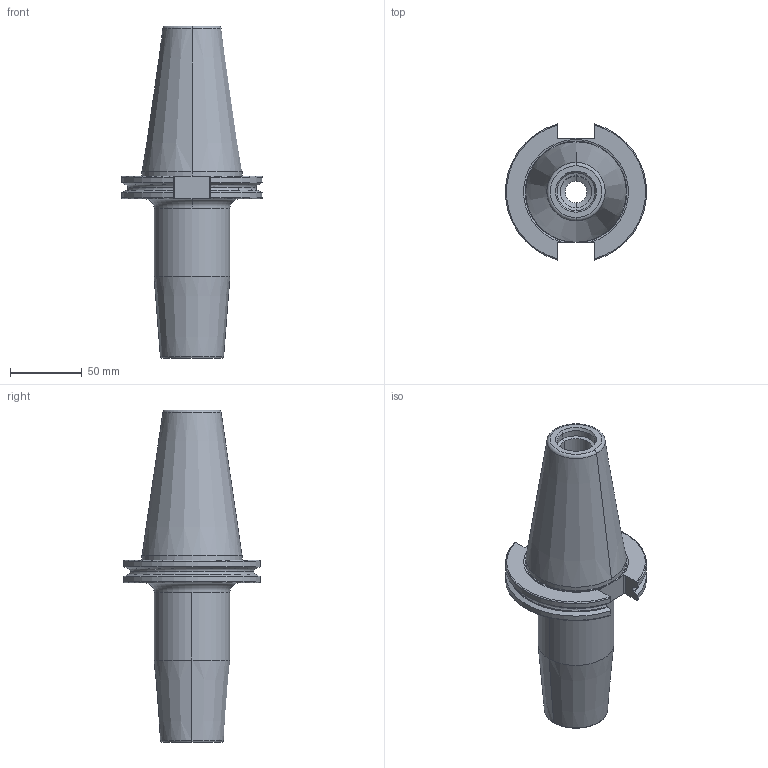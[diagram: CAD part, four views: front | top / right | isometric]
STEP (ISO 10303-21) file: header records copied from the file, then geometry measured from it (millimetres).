
FILE_DESCRIPTION (( 'STEP AP214' ), '1' );
FILE_NAME ('C6N4-0032.STEP', '2020-01-16T17:30:47', ( '' ), ( '' ), 'SwSTEP 2.0', 'SolidWorks 2020', '' );
FILE_SCHEMA (( 'AUTOMOTIVE_DESIGN' ));
Length unit declared in the file: inch
Products named in the file (1): C6N4-0032
Bounding box: 98.05 x 94.95 x 231.6 mm (x, y, z)
Volume: 485999.5 mm3; surface area: 69031.7 mm2
Topology: 1 solids, 1 shells, 93 faces, 236 edges, 145 vertices
Faces by surface type: cylinder 28, cone 25, torus 20, plane 20
Entity records: 4226 total; most frequent: CARTESIAN_POINT 739, DIRECTION 485, ORIENTED_EDGE 468, EDGE_CURVE 234, AXIS2_PLACEMENT_3D 197, VERTEX_POINT 145, CIRCLE 103, EDGE_LOOP 97
